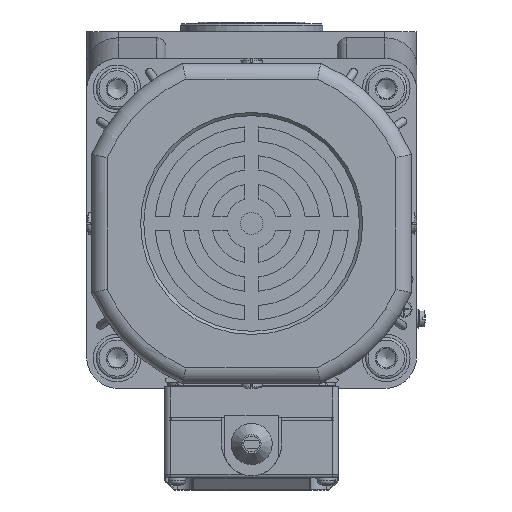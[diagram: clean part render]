
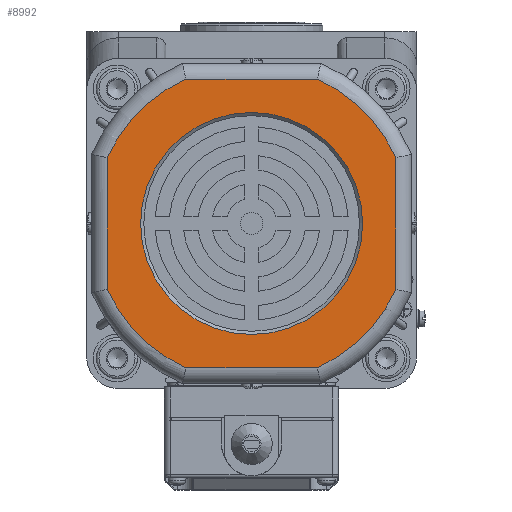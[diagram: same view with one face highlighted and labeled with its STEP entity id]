
A CAD part, left-side view. The second image highlights one B-rep face of the part: STEP entity #8992.
In plain terms, the highlighted planar face has unit normal (-1, 0, 0).
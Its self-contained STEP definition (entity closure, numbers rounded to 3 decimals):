
#2242=PLANE('',#30692);
#5284=LINE('',#48268,#7235);
#5288=LINE('',#48306,#7239);
#5291=LINE('',#48340,#7242);
#5292=LINE('',#48357,#7243);
#7235=VECTOR('',#36994,1.);
#7239=VECTOR('',#37010,1.);
#7242=VECTOR('',#37021,1.);
#7243=VECTOR('',#37028,1.);
#8992=ADVANCED_FACE('',(#9920,#9921),#2242,.F.);
#9920=FACE_BOUND('',#11564,.T.);
#9921=FACE_BOUND('',#11565,.T.);
#11564=EDGE_LOOP('',(#18214,#18215,#18216,#18217,#18218,#18219,#18220,#18221));
#11565=EDGE_LOOP('',(#18222));
#18214=ORIENTED_EDGE('',*,*,#25846,.T.);
#18215=ORIENTED_EDGE('',*,*,#25827,.T.);
#18216=ORIENTED_EDGE('',*,*,#25832,.T.);
#18217=ORIENTED_EDGE('',*,*,#25836,.T.);
#18218=ORIENTED_EDGE('',*,*,#25840,.T.);
#18219=ORIENTED_EDGE('',*,*,#25844,.T.);
#18220=ORIENTED_EDGE('',*,*,#25849,.T.);
#18221=ORIENTED_EDGE('',*,*,#25850,.T.);
#18222=ORIENTED_EDGE('',*,*,#25998,.T.);
#22205=VERTEX_POINT('',#48235);
#22206=VERTEX_POINT('',#48237);
#22208=VERTEX_POINT('',#48267);
#22210=VERTEX_POINT('',#48286);
#22212=VERTEX_POINT('',#48305);
#22214=VERTEX_POINT('',#48324);
#22215=VERTEX_POINT('',#48339);
#22216=VERTEX_POINT('',#48356);
#22316=VERTEX_POINT('',#48658);
#25827=EDGE_CURVE('',#22206,#22205,#28079,.T.);
#25832=EDGE_CURVE('',#22205,#22208,#5284,.T.);
#25836=EDGE_CURVE('',#22208,#22210,#28081,.T.);
#25840=EDGE_CURVE('',#22210,#22212,#5288,.T.);
#25844=EDGE_CURVE('',#22212,#22214,#28083,.T.);
#25846=EDGE_CURVE('',#22215,#22206,#5291,.T.);
#25849=EDGE_CURVE('',#22214,#22216,#5292,.T.);
#25850=EDGE_CURVE('',#22216,#22215,#28085,.T.);
#25998=EDGE_CURVE('',#22316,#22316,#28137,.T.);
#28079=CIRCLE('',#30556,50.);
#28081=CIRCLE('',#30562,50.);
#28083=CIRCLE('',#30568,50.);
#28085=CIRCLE('',#30574,50.);
#28137=CIRCLE('',#30677,35.);
#30556=AXIS2_PLACEMENT_3D('',#48236,#36985,#36986);
#30562=AXIS2_PLACEMENT_3D('',#48287,#37001,#37002);
#30568=AXIS2_PLACEMENT_3D('',#48325,#37017,#37018);
#30574=AXIS2_PLACEMENT_3D('',#48359,#37031,#37032);
#30677=AXIS2_PLACEMENT_3D('',#48657,#37333,#37334);
#30692=AXIS2_PLACEMENT_3D('',#48673,#37363,#37364);
#36985=DIRECTION('',(-1.,0.,0.));
#36986=DIRECTION('',(0.,0.,1.));
#36994=DIRECTION('',(0.,0.,1.));
#37001=DIRECTION('',(-1.,0.,0.));
#37002=DIRECTION('',(0.,0.,1.));
#37010=DIRECTION('',(0.,1.,0.));
#37017=DIRECTION('',(-1.,0.,0.));
#37018=DIRECTION('',(0.,0.,1.));
#37021=DIRECTION('',(0.,-1.,0.));
#37028=DIRECTION('',(0.,0.,-1.));
#37031=DIRECTION('',(-1.,0.,0.));
#37032=DIRECTION('',(0.,0.,1.));
#37333=DIRECTION('',(1.,0.,0.));
#37334=DIRECTION('',(0.,-1.,0.));
#37363=DIRECTION('',(1.,0.,0.));
#37364=DIRECTION('',(0.,0.,1.));
#48235=CARTESIAN_POINT('',(-237.8,-166.171,-79.221));
#48236=CARTESIAN_POINT('',(-237.8,-120.671,-58.491));
#48237=CARTESIAN_POINT('',(-237.8,-141.402,-103.991));
#48267=CARTESIAN_POINT('',(-237.8,-166.171,-37.76));
#48268=CARTESIAN_POINT('',(-237.8,-166.171,-36.702));
#48286=CARTESIAN_POINT('',(-237.8,-141.402,-12.991));
#48287=CARTESIAN_POINT('',(-237.8,-120.671,-58.491));
#48305=CARTESIAN_POINT('',(-237.8,-99.941,-12.991));
#48306=CARTESIAN_POINT('',(-237.8,-98.882,-12.991));
#48324=CARTESIAN_POINT('',(-237.8,-75.171,-37.76));
#48325=CARTESIAN_POINT('',(-237.8,-120.671,-58.491));
#48339=CARTESIAN_POINT('',(-237.8,-99.941,-103.991));
#48340=CARTESIAN_POINT('',(-237.8,-142.46,-103.991));
#48356=CARTESIAN_POINT('',(-237.8,-75.171,-79.221));
#48357=CARTESIAN_POINT('',(-237.8,-75.171,-80.28));
#48359=CARTESIAN_POINT('',(-237.8,-120.671,-58.491));
#48657=CARTESIAN_POINT('',(-237.8,-120.671,-58.491));
#48658=CARTESIAN_POINT('',(-237.8,-155.671,-58.491));
#48673=CARTESIAN_POINT('',(-237.8,-120.671,-58.491));
